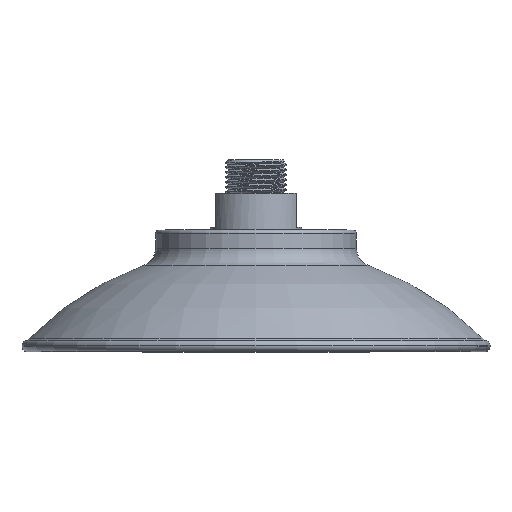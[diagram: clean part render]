
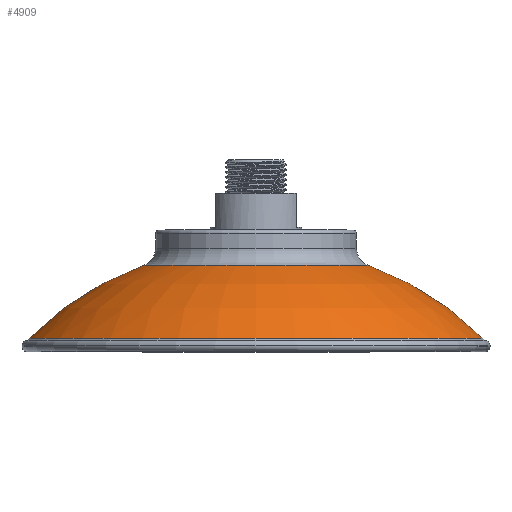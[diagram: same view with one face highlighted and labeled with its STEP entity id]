
A CAD part, top view. The second image highlights one B-rep face of the part: STEP entity #4909.
In plain terms, the highlighted toroidal (fillet/blend) face has major radius 3.376 mm and minor radius 81.349 mm.
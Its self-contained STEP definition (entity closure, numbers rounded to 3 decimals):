
#870 = TOROIDAL_SURFACE ( 'NONE', #46032, 3.376, 81.349 ) ;
#2319 = FACE_OUTER_BOUND ( 'NONE', #3695, .T. ) ;
#3695 = EDGE_LOOP ( 'NONE', ( #36963 ) ) ;
#4205 = CIRCLE ( 'NONE', #54635, 30.497 ) ;
#4909 = ADVANCED_FACE ( 'NONE', ( #2319, #62221 ), #870, .T. ) ;
#7720 = EDGE_CURVE ( 'NONE', #57329, #57329, #4205, .T. ) ;
#7825 = DIRECTION ( 'NONE',  ( 0., 1., 0. ) ) ;
#17263 = EDGE_CURVE ( 'NONE', #52408, #52408, #36836, .T. ) ;
#27575 = DIRECTION ( 'NONE',  ( 0., 0., 1. ) ) ;
#32846 = DIRECTION ( 'NONE',  ( 0., 0., 1. ) ) ;
#33491 = ORIENTED_EDGE ( 'NONE', *, *, #7720, .F. ) ;
#36836 = CIRCLE ( 'NONE', #55679, 61.504 ) ;
#36963 = ORIENTED_EDGE ( 'NONE', *, *, #17263, .T. ) ;
#42793 = CARTESIAN_POINT ( 'NONE',  ( 0., -86.749, 0. ) ) ;
#46032 = AXIS2_PLACEMENT_3D ( 'NONE', #42793, #56930, #58223 ) ;
#47801 = CARTESIAN_POINT ( 'NONE',  ( 0., -10.054, 30.497 ) ) ;
#49372 = CARTESIAN_POINT ( 'NONE',  ( 0., -29.839, 61.504 ) ) ;
#52408 = VERTEX_POINT ( 'NONE', #49372 ) ;
#52827 = DIRECTION ( 'NONE',  ( 0., 1., 0. ) ) ;
#53456 = CARTESIAN_POINT ( 'NONE',  ( 0., -10.054, 0. ) ) ;
#54635 = AXIS2_PLACEMENT_3D ( 'NONE', #53456, #52827, #32846 ) ;
#55679 = AXIS2_PLACEMENT_3D ( 'NONE', #56538, #7825, #27575 ) ;
#56538 = CARTESIAN_POINT ( 'NONE',  ( 0., -29.839, 0. ) ) ;
#56930 = DIRECTION ( 'NONE',  ( 0., 1., 0. ) ) ;
#57329 = VERTEX_POINT ( 'NONE', #47801 ) ;
#58223 = DIRECTION ( 'NONE',  ( 0., 0., 1. ) ) ;
#60392 = EDGE_LOOP ( 'NONE', ( #33491 ) ) ;
#62221 = FACE_OUTER_BOUND ( 'NONE', #60392, .T. ) ;
